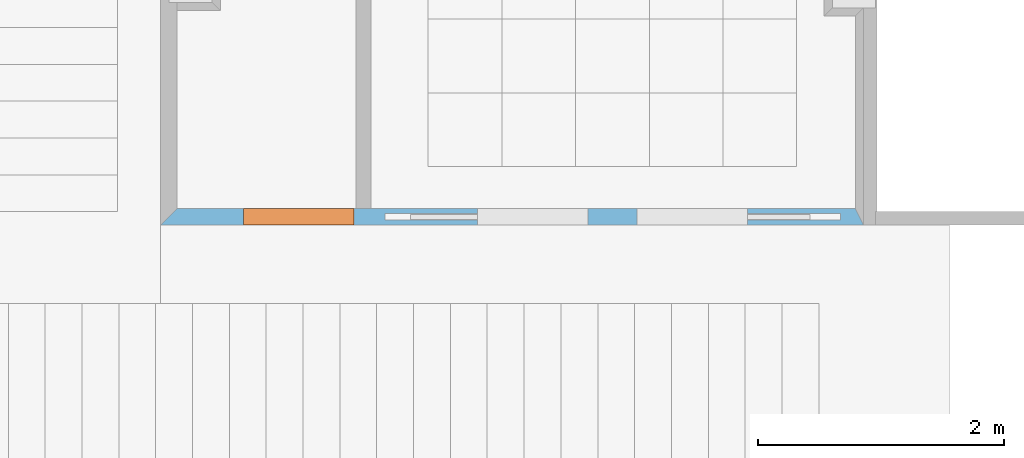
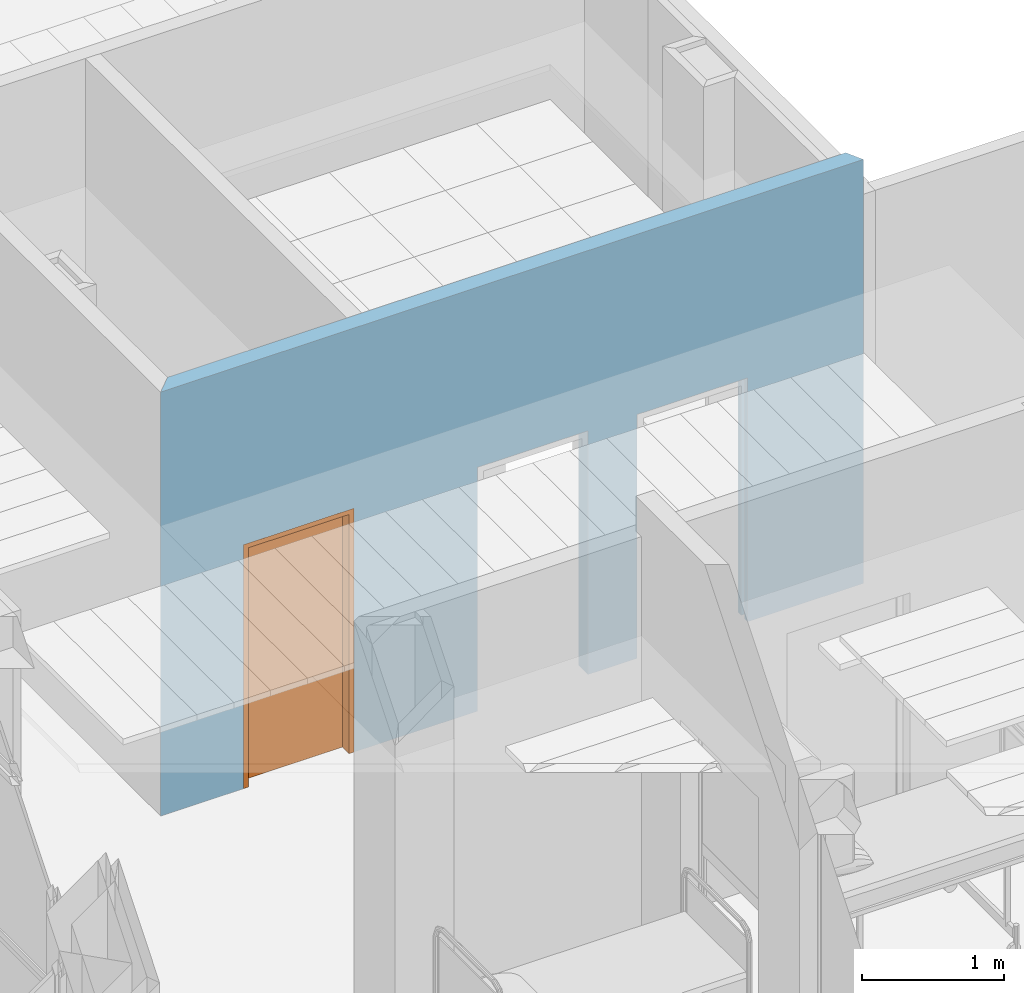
# One storey, part 54 of 60: 1 proxy, 3 openings, plus 1 element that does not belong to this part.
"""IFC2X3 building model written with IfcOpenShell, lengths in millimetres."""

from ifc_helpers import new_model, entity, si_unit, converted_unit, derived_unit, money_unit, direction, frame, origin_with_axes, origin_2d_with_axis, place, context, subcontext, project, spatial, polyline, rectangle, outline, extrude, faceted_brep, material, layer, layer_set, layer_usage, type_object, element, fill, save


model = new_model("IFC2X3")

# Units and contexts
model_context = context("Model", 3, precision=0.01, world=origin_with_axes(), true_north=direction((0.0, 1.0)))
body_context = subcontext(model_context, "Body", "Model", "MODEL_VIEW")
ifc_project = project(units=[si_unit("LENGTHUNIT", "METRE", prefix="MILLI"), si_unit("AREAUNIT", "SQUARE_METRE"), si_unit("VOLUMEUNIT", "CUBIC_METRE"), converted_unit("PLANEANGLEUNIT", "DEGREE", entity("IfcPlaneAngleMeasure", 0.0174532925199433), si_unit("PLANEANGLEUNIT", "RADIAN"), dimensions=[0, 0, 0, 0, 0, 0, 0]), money_unit("USD"), converted_unit("TIMEUNIT", "Year", entity("IfcTimeMeasure", 31557600.0), si_unit("TIMEUNIT", "SECOND"), dimensions=[0, 0, 1, 0, 0, 0, 0]), si_unit("MASSUNIT", "GRAM", prefix="KILO"), si_unit("THERMODYNAMICTEMPERATUREUNIT", "DEGREE_CELSIUS"), si_unit("LUMINOUSINTENSITYUNIT", "LUMEN"), si_unit("ENERGYUNIT", "JOULE", prefix="MEGA"), derived_unit("THERMALCONDUCTANCEUNIT", [(si_unit("POWERUNIT", "WATT"), 1), (si_unit("LENGTHUNIT", "METRE"), -1), (si_unit("THERMODYNAMICTEMPERATUREUNIT", "KELVIN"), -1)]), derived_unit("SPECIFICHEATCAPACITYUNIT", [(si_unit("ENERGYUNIT", "JOULE"), 1), (si_unit("MASSUNIT", "GRAM", prefix="KILO"), -1), (si_unit("THERMODYNAMICTEMPERATUREUNIT", "KELVIN"), -1)]), derived_unit("MASSDENSITYUNIT", [(si_unit("MASSUNIT", "GRAM", prefix="KILO"), 1), (si_unit("VOLUMEUNIT", "CUBIC_METRE"), -1)])], contexts=[model_context])

# Site, building, storey
site_placement = place(None, origin_with_axes())
site = spatial("IfcSite", under=ifc_project, at=site_placement, Name="Sitio", CompositionType="ELEMENT")
building_placement = place(site_placement, origin_with_axes())
building = spatial("IfcBuilding", under=site, at=building_placement, Name="Construcción", CompositionType="ELEMENT")
storey_placement = place(building_placement, frame((0.0, 0.0, 3650.0), z_axis=(0.0, 0.0, 1.0), x_axis=(1.0, 0.0, 0.0)))
storey = spatial("IfcBuildingStorey", under=building, at=storey_placement, Name="PLANTA 2ª", CompositionType="ELEMENT", Elevation=3650.0)

# Wall, openings, proxy
ifc_material_1 = material(Name="Panel de Yeso Laminado")
ifc_layer_1 = layer(ifc_material_1, 13.0, ventilated="UNKNOWN")
ifc_layer_2 = layer(ifc_material_1, 13.0, ventilated="UNKNOWN")
ifc_material_2 = material(Name="ARQ_AI033_Aillament_Llana_De_Roca")
ifc_layer_3 = layer(ifc_material_2, 70.0, ventilated="UNKNOWN")
ifc_layer_4 = layer(ifc_material_1, 13.0, ventilated="UNKNOWN")
ifc_layer_5 = layer(ifc_material_1, 13.0, ventilated="UNKNOWN")
ifc_material_3 = material(Name="ARQ_EN271_Camara_Aire")
ifc_layer_6 = layer(ifc_material_3, 6.0, ventilated="UNKNOWN")
ifc_material_4 = material(Name="ARQ_FU093_Panellat_HPL")
ifc_layer_7 = layer(ifc_material_4, 6.0, ventilated="UNKNOWN")
ifc_layer_set = layer_set([ifc_layer_1, ifc_layer_2, ifc_layer_3, ifc_layer_4, ifc_layer_5, ifc_layer_6, ifc_layer_7], Name="CR Pladur 70 HPL 1 cara")
ifc_layer_usage = layer_usage(ifc_layer_set, "AXIS2", "NEGATIVE", 134.0)
wall_type = type_object("IfcWallType", Name="CR Pladur 70 HPL 1 cara 134", PredefinedType="NOTDEFINED")
wall_placement = place(storey_placement, frame((358.8909950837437, -9207.420994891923, 0.0), z_axis=(0.0, 0.0, 1.0), x_axis=(1.0, 0.0, 0.0)))
wall = element("IfcWallStandardCase", 1, at=wall_placement, inside=storey, type_object=wall_type, material=ifc_layer_usage, Name="MS-212", context=body_context, shape_type="SweptSolid", body=[
    extrude(outline(polyline([(0.0, 0.0), (5723.214859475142, 0.0), (5657.214859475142, 134.0000000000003), (133.9999999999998, 134.0000000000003), (0.0, 0.0)])), origin_with_axes(), (0.0, 0.0, 1.0), 3650.0),
])
opening_1_placement = place(wall_placement, frame((1124.076086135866, 0.0, 0.0), z_axis=(0.0, 0.0, 1.0), x_axis=(1.0, 0.0, 0.0)))
opening_1 = element("IfcOpeningElement", 2, at=opening_1_placement, cuts=wall, Name="P-02", context=body_context, shape_type="SweptSolid", body=[
    extrude(rectangle(XDim=899.9999999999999, YDim=2100.0, at=origin_2d_with_axis()), frame((0.0, -134.0000000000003, 1049.999999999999), z_axis=(0.0, 1.0, 0.0), x_axis=(1.0, 0.0, 0.0)), (0.0, 0.0, 1.0), 402.0),
])
opening_2_placement = place(wall_placement, frame((4330.604929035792, 0.0, 0.0), z_axis=(0.0, 0.0, 1.0), x_axis=(1.0, 0.0, 0.0)))
element("IfcOpeningElement", 3, at=opening_2_placement, cuts=wall, Name="P-01", context=body_context, shape_type="SweptSolid", body=[
    extrude(rectangle(XDim=900.0000000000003, YDim=2100.0, at=origin_2d_with_axis()), frame((0.0, 134.0000000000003, 1049.999999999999), z_axis=(0.0, 1.0, 0.0), x_axis=(1.0, 0.0, 0.0)), (0.0, 0.0, -1.0), 402.0),
    extrude(rectangle(XDim=754.9999999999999, YDim=2050.0, at=origin_2d_with_axis()), frame((827.4999999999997, 41.99999999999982, 1025.0), z_axis=(0.0, -1.0, 0.0), x_axis=(1.0, 0.0, 0.0)), (0.0, 0.0, -1.0), 50.0),
])
opening_3_placement = place(wall_placement, frame((3030.604929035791, 0.0, 0.0), z_axis=(0.0, 0.0, 1.0), x_axis=(1.0, 0.0, 0.0)))
element("IfcOpeningElement", 4, at=opening_3_placement, cuts=wall, Name="P-01", context=body_context, shape_type="SweptSolid", body=[
    extrude(rectangle(XDim=900.0000000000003, YDim=2100.0, at=origin_2d_with_axis()), frame((0.0, 134.0000000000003, 1049.999999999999), z_axis=(0.0, -1.0, 0.0), x_axis=(-1.0, 0.0, 0.0)), (0.0, 0.0, 1.0), 402.0),
    extrude(rectangle(XDim=754.9999999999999, YDim=2050.0, at=origin_2d_with_axis()), frame((-827.5000000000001, 41.99999999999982, 1025.0), z_axis=(0.0, 1.0, 0.0), x_axis=(-1.0, 0.0, 0.0)), (0.0, 0.0, 1.0), 50.0),
])
building_element_proxy_type = type_object("IfcBuildingElementProxyType", Name="Puerta 27", PredefinedType="NOTDEFINED")
proxy_placement = place(opening_1_placement, frame((-449.9999999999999, 0.0, 0.0), z_axis=(0.0, 0.0, 1.0), x_axis=(1.0, 0.0, 0.0)))
proxy = element("IfcBuildingElementProxy", 5, at=proxy_placement, inside=storey, type_object=building_element_proxy_type, Name="P-02", context=body_context, shape_type="Brep", body=[
    faceted_brep([(40.00000000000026, 94.0000000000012, 0.0), (39.99999999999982, 94.0000000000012, 2060.0), (39.99999999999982, 0.0, 2060.0), (39.99999999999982, 0.0, 0.0), (27.9999999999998, 94.0000000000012, 2060.0), (27.9999999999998, 94.0000000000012, 0.0), (27.9999999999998, 134.0000000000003, 2060.0), (0.0, 134.0000000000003, 2060.0), (0.0, 0.0, 2060.0), (0.0, 0.0, 0.0), (0.0, 134.0000000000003, 0.0), (27.9999999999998, 134.0000000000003, 0.0)], [[[0, 1, 2, 3]], [[4, 1, 0, 5]], [[4, 6, 7, 8, 2, 1]], [[3, 2, 8, 9]], [[5, 0, 3, 9, 10, 11]], [[6, 4, 5, 11]], [[6, 11, 10, 7]], [[10, 9, 8, 7]]]),
    faceted_brep([(872.0000000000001, 94.0000000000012, 2060.0), (860.0000000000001, 94.0000000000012, 2060.0), (860.0000000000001, 0.0, 2060.0), (899.9999999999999, 0.0, 2060.0), (899.9999999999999, 134.0000000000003, 2060.0), (872.0000000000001, 134.0000000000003, 2060.0), (872.0000000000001, 94.0000000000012, 0.0), (860.0000000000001, 94.0000000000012, 0.0), (860.0000000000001, 0.0, 0.0), (899.9999999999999, 0.0, 0.0), (899.9999999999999, 134.0000000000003, 0.0), (872.0000000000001, 134.0000000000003, 0.0)], [[[0, 1, 2, 3, 4, 5]], [[1, 0, 6, 7]], [[1, 7, 8, 2]], [[3, 2, 8, 9]], [[4, 3, 9, 10]], [[11, 5, 4, 10]], [[0, 5, 11, 6]], [[6, 11, 10, 9, 8, 7]]]),
    faceted_brep([(27.9999999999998, 134.0000000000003, 2072.0), (27.9999999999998, 134.0000000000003, 2060.0), (0.0, 134.0000000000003, 2060.0), (0.0, 134.0000000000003, 2100.0), (899.9999999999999, 134.0000000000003, 2100.0), (899.9999999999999, 134.0000000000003, 2060.0), (872.0000000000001, 134.0000000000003, 2060.0), (872.0000000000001, 134.0000000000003, 2072.0), (27.9999999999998, 94.0000000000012, 2072.0), (27.9999999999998, 94.0000000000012, 2060.0), (39.99999999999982, 94.0000000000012, 2060.0), (39.99999999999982, 0.0, 2060.0), (0.0, 0.0, 2060.0), (0.0, 0.0, 2100.0), (899.9999999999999, 0.0, 2100.0), (899.9999999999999, 0.0, 2060.0), (872.0000000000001, 94.0000000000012, 2060.0), (860.0000000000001, 0.0, 2060.0), (860.0000000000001, 94.0000000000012, 2060.0), (872.0000000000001, 94.0000000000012, 2072.0)], [[[0, 1, 2, 3, 4, 5, 6, 7]], [[1, 0, 8, 9]], [[9, 10, 11, 12, 2, 1]], [[2, 12, 13, 3]], [[3, 13, 14, 4]], [[4, 14, 15, 5]], [[16, 6, 5, 15, 17, 18]], [[7, 6, 16, 19]], [[0, 7, 19, 8]], [[16, 18, 10, 9, 8, 19]], [[10, 18, 17, 11]], [[17, 15, 14, 13, 12, 11]]]),
    faceted_brep([(871.9999999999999, 134.0000000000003, 0.0), (871.9999999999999, 94.0000000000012, 0.0), (27.9999999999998, 94.0000000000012, 0.0), (27.9999999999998, 134.0000000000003, 0.0), (871.9999999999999, 134.0000000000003, 2072.0), (871.9999999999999, 94.0000000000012, 2072.0), (27.9999999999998, 94.0000000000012, 2072.0), (27.9999999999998, 134.0000000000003, 2072.0)], [[[0, 1, 2, 3]], [[4, 5, 1, 0]], [[1, 5, 6, 2]], [[3, 2, 6, 7]], [[0, 3, 7, 4]], [[7, 6, 5, 4]]]),
])
fill(opening_1, proxy)

save(model, "model.ifc")
